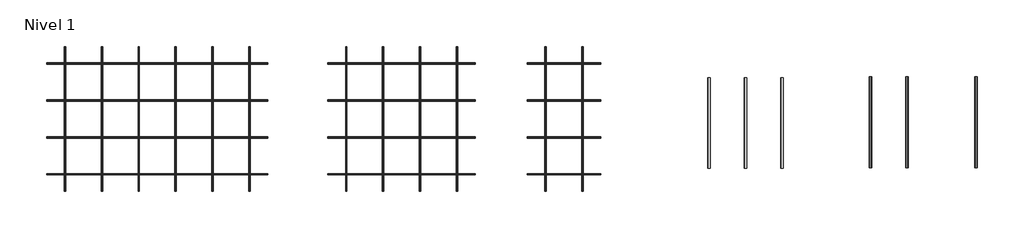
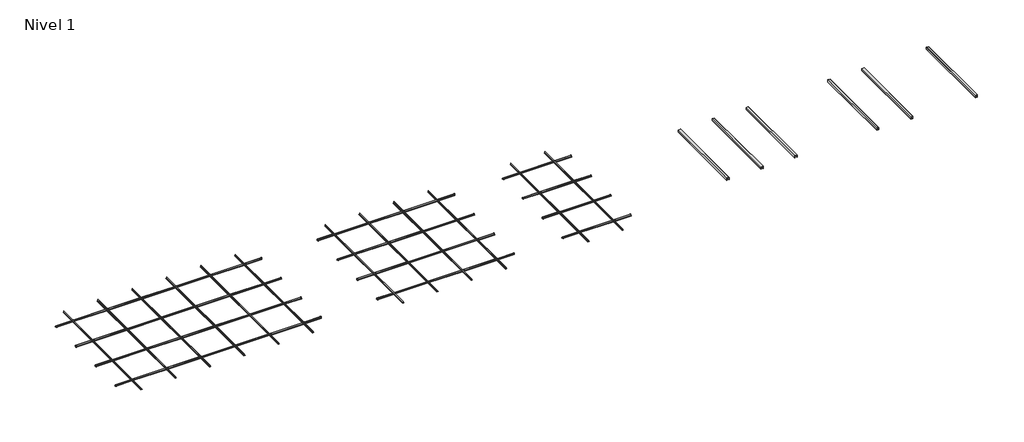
# One storey, incomplete: 6 proxies.
"""IFC4 building model written with IfcOpenShell, lengths in millimetres."""

from ifc_helpers import new_model, si_unit, origin, place, context, project, spatial, transform, mapped, element, save
from components import generic_models_bb0a471c, generic_models_47ee162d, generic_models_ad41e831, generic_models_402eb42b, generic_models_6d13eddf, generic_models_d19dd1a3, generic_models_58cd6918, generic_models_76d1f47b

model = new_model("IFC4")

# Units and contexts
model_context = context("Model", 3, world=origin())
ifc_project = project(units=[si_unit("LENGTHUNIT", "METRE", prefix="MILLI")], contexts=[model_context])

# Site, building, storey
site = spatial("IfcSite", under=ifc_project)
building = spatial("IfcBuilding", under=site)
storey = spatial("IfcBuildingStorey", under=building, Name="Nivel 1", Elevation=0.0)

# Proxies
placement = place(None, origin())
generic_models_shape = generic_models_bb0a471c(model_context)
generic_models_2_shape = generic_models_47ee162d(model_context)
element("IfcBuildingElementProxy", 1, Name="modelo_altus 2.3dm", ObjectType="modelo_altus 2.3dm", at=placement, inside=storey, context=model_context, shape_type="MappedRepresentation", body=[
    mapped(generic_models_shape, transform((5600.0, 0.0, 0.0), x_axis=(1.0, 0.0, 0.0), y_axis=(0.0, 1.0, 0.0), z_axis=(0.0, 0.0, 1.0))),
    mapped(generic_models_2_shape, transform((5600.0, 0.0, 0.0), x_axis=(1.0, 0.0, 0.0), y_axis=(0.0, 1.0, 0.0), z_axis=(0.0, 0.0, 1.0))),
])
generic_models_3_shape = generic_models_ad41e831(model_context)
generic_models_4_shape = generic_models_402eb42b(model_context)
element("IfcBuildingElementProxy", 2, Name="modelo_altus 1.3dm", ObjectType="modelo_altus 1.3dm", at=placement, inside=storey, context=model_context, shape_type="MappedRepresentation", body=[
    mapped(generic_models_3_shape, transform((5600.0, 0.0, 0.0), x_axis=(1.0, 0.0, 0.0), y_axis=(0.0, 1.0, 0.0), z_axis=(0.0, 0.0, 1.0))),
    mapped(generic_models_4_shape, transform((5600.0, 0.0, 0.0), x_axis=(1.0, 0.0, 0.0), y_axis=(0.0, 1.0, 0.0), z_axis=(0.0, 0.0, 1.0))),
])
generic_models_5_shape = generic_models_6d13eddf(model_context)
element("IfcBuildingElementProxy", 3, Name="modelo_altus 2.3dm", ObjectType="modelo_altus 2.3dm", at=placement, inside=storey, context=model_context, shape_type="MappedRepresentation", body=[
    mapped(generic_models_5_shape, transform((5600.0, 0.0, 0.0), x_axis=(1.0, 0.0, 0.0), y_axis=(0.0, 1.0, 0.0), z_axis=(0.0, 0.0, 1.0))),
])
generic_models_6_shape = generic_models_d19dd1a3(model_context)
element("IfcBuildingElementProxy", 4, Name="modelo_altus 11.3dm", ObjectType="modelo_altus 11.3dm", at=placement, inside=storey, context=model_context, shape_type="MappedRepresentation", body=[
    mapped(generic_models_6_shape, transform((5600.0, 0.0, 0.0), x_axis=(1.0, 0.0, 0.0), y_axis=(0.0, 1.0, 0.0), z_axis=(0.0, 0.0, 1.0))),
])
generic_models_7_shape = generic_models_58cd6918(model_context)
element("IfcBuildingElementProxy", 5, Name="modelo_altus 12.3dm", ObjectType="modelo_altus 12.3dm", at=placement, inside=storey, context=model_context, shape_type="MappedRepresentation", body=[
    mapped(generic_models_7_shape, transform((5600.0, 0.0, 0.0), x_axis=(1.0, 0.0, 0.0), y_axis=(0.0, 1.0, 0.0), z_axis=(0.0, 0.0, 1.0))),
])
generic_models_8_shape = generic_models_76d1f47b(model_context)
element("IfcBuildingElementProxy", 6, Name="modelo_altus 12.3dm", ObjectType="modelo_altus 12.3dm", at=placement, inside=storey, context=model_context, shape_type="MappedRepresentation", body=[
    mapped(generic_models_8_shape, transform((5600.0, 0.0, 0.0), x_axis=(1.0, 0.0, 0.0), y_axis=(0.0, 1.0, 0.0), z_axis=(0.0, 0.0, 1.0))),
])

save(model, "model.ifc")
